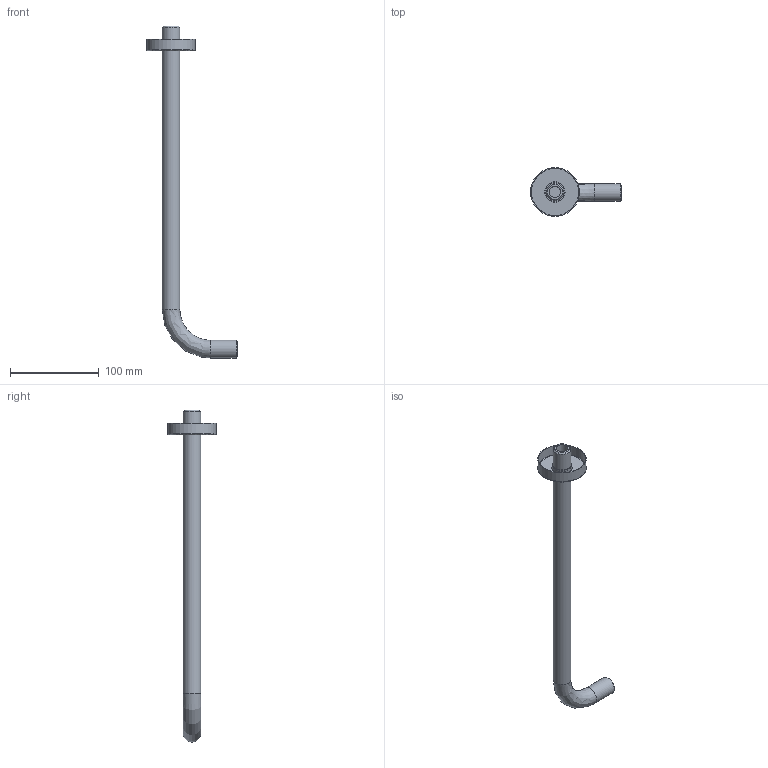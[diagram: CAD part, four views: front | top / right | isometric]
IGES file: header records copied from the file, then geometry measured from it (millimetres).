
Global section: file name: No Iges File Name specified; native system: AutoDesk Inventor R6.1; preprocessor: AutoDesk Inventor Iges Exporter R6.1; author: No Author specified; organization: No Organization specified; date: 20090327.101726; units: millimetre
Bounding box: 102.5 x 55 x 375 mm (x, y, z)
Surface area: 52726.3 mm2 (no closed solid volume)
Topology: 0 solids, 0 shells, 27 faces, 73 edges, 55 vertices
Faces by surface type: revolution 16, plane 9, bspline 2
